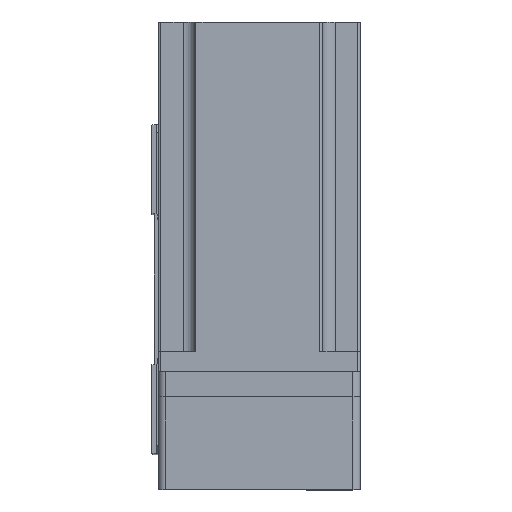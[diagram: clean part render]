
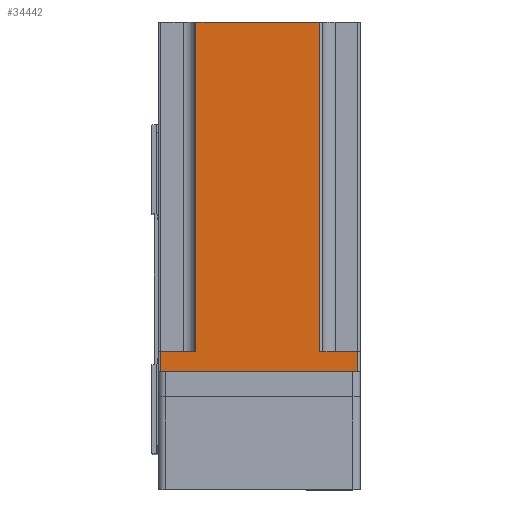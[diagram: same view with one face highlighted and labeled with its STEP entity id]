
A CAD part, top view. The second image highlights one B-rep face of the part: STEP entity #34442.
In plain terms, the highlighted planar face has unit normal (0, 0, 1) as drawn and (-1, 0, 0) by its records, which use the part's own axes.
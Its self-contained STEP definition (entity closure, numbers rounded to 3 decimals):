
#499 = VECTOR ( 'NONE', #14177, 1000. ) ;
#921 = VERTEX_POINT ( 'NONE', #17688 ) ;
#979 = VECTOR ( 'NONE', #40063, 1000. ) ;
#1565 = VECTOR ( 'NONE', #16499, 1000. ) ;
#1666 = ORIENTED_EDGE ( 'NONE', *, *, #9143, .T. ) ;
#2576 = LINE ( 'NONE', #19737, #1565 ) ;
#4002 = ORIENTED_EDGE ( 'NONE', *, *, #17159, .F. ) ;
#5111 = VECTOR ( 'NONE', #8178, 1000. ) ;
#7319 = VECTOR ( 'NONE', #36195, 1000. ) ;
#7542 = ORIENTED_EDGE ( 'NONE', *, *, #34612, .T. ) ;
#8178 = DIRECTION ( 'NONE',  ( 0., 0., 1. ) ) ;
#8288 = ORIENTED_EDGE ( 'NONE', *, *, #29727, .F. ) ;
#8470 = LINE ( 'NONE', #14075, #33386 ) ;
#8680 = DIRECTION ( 'NONE',  ( 0., 0., -1. ) ) ;
#9143 = EDGE_CURVE ( 'NONE', #921, #34441, #34239, .T. ) ;
#9155 = ORIENTED_EDGE ( 'NONE', *, *, #32388, .T. ) ;
#9182 = LINE ( 'NONE', #20572, #499 ) ;
#9308 = VERTEX_POINT ( 'NONE', #33784 ) ;
#9662 = LINE ( 'NONE', #10519, #979 ) ;
#10519 = CARTESIAN_POINT ( 'NONE',  ( -40., 25., 8. ) ) ;
#10933 = DIRECTION ( 'NONE',  ( 1., 0., 0. ) ) ;
#13336 = VERTEX_POINT ( 'NONE', #38338 ) ;
#13680 = AXIS2_PLACEMENT_3D ( 'NONE', #30438, #10933, #33698 ) ;
#13782 = LINE ( 'NONE', #21143, #5111 ) ;
#13948 = DIRECTION ( 'NONE',  ( 0., -1., 0. ) ) ;
#14075 = CARTESIAN_POINT ( 'NONE',  ( -40., -24., 138.3 ) ) ;
#14102 = EDGE_LOOP ( 'NONE', ( #4002, #29254, #8288, #15589, #9155, #7542, #1666, #19009 ) ) ;
#14177 = DIRECTION ( 'NONE',  ( 0., 1., 0. ) ) ;
#14849 = CARTESIAN_POINT ( 'NONE',  ( -40., -24., 8. ) ) ;
#15589 = ORIENTED_EDGE ( 'NONE', *, *, #25795, .F. ) ;
#15751 = CARTESIAN_POINT ( 'NONE',  ( -40., 25., 138.3 ) ) ;
#16499 = DIRECTION ( 'NONE',  ( 0., -1., 0. ) ) ;
#17159 = EDGE_CURVE ( 'NONE', #21476, #34170, #36412, .T. ) ;
#17205 = EDGE_CURVE ( 'NONE', #21476, #13336, #8470, .T. ) ;
#17688 = CARTESIAN_POINT ( 'NONE',  ( -40., 39., 0. ) ) ;
#19009 = ORIENTED_EDGE ( 'NONE', *, *, #32509, .T. ) ;
#19737 = CARTESIAN_POINT ( 'NONE',  ( -40., -40., 138.3 ) ) ;
#20243 = VERTEX_POINT ( 'NONE', #15751 ) ;
#20572 = CARTESIAN_POINT ( 'NONE',  ( -40., 40., 8. ) ) ;
#21143 = CARTESIAN_POINT ( 'NONE',  ( -40., -39., 138.3 ) ) ;
#21476 = VERTEX_POINT ( 'NONE', #14849 ) ;
#25016 = CARTESIAN_POINT ( 'NONE',  ( -40., 39., 138.3 ) ) ;
#25795 = EDGE_CURVE ( 'NONE', #9308, #20243, #9662, .T. ) ;
#26536 = CARTESIAN_POINT ( 'NONE',  ( -40., -40., 0. ) ) ;
#26666 = CARTESIAN_POINT ( 'NONE',  ( -40., 39., 8. ) ) ;
#26839 = CARTESIAN_POINT ( 'NONE',  ( -40., -40., 8. ) ) ;
#29254 = ORIENTED_EDGE ( 'NONE', *, *, #17205, .T. ) ;
#29727 = EDGE_CURVE ( 'NONE', #20243, #13336, #2576, .T. ) ;
#30438 = CARTESIAN_POINT ( 'NONE',  ( -40., -40., 138.3 ) ) ;
#30714 = FACE_OUTER_BOUND ( 'NONE', #14102, .T. ) ;
#32025 = CARTESIAN_POINT ( 'NONE',  ( -40., -39., 8. ) ) ;
#32224 = LINE ( 'NONE', #25016, #39818 ) ;
#32327 = VERTEX_POINT ( 'NONE', #26666 ) ;
#32388 = EDGE_CURVE ( 'NONE', #9308, #32327, #9182, .T. ) ;
#32509 = EDGE_CURVE ( 'NONE', #34441, #34170, #13782, .T. ) ;
#33386 = VECTOR ( 'NONE', #40041, 1000. ) ;
#33553 = CARTESIAN_POINT ( 'NONE',  ( -40., -39., 0. ) ) ;
#33698 = DIRECTION ( 'NONE',  ( 0., 0., -1. ) ) ;
#33784 = CARTESIAN_POINT ( 'NONE',  ( -40., 25., 8. ) ) ;
#34170 = VERTEX_POINT ( 'NONE', #32025 ) ;
#34239 = LINE ( 'NONE', #26536, #7319 ) ;
#34441 = VERTEX_POINT ( 'NONE', #33553 ) ;
#34442 = ADVANCED_FACE ( 'NONE', ( #30714 ), #36800, .F. ) ;
#34612 = EDGE_CURVE ( 'NONE', #32327, #921, #32224, .T. ) ;
#35408 = VECTOR ( 'NONE', #13948, 1000. ) ;
#36195 = DIRECTION ( 'NONE',  ( 0., -1., 0. ) ) ;
#36412 = LINE ( 'NONE', #26839, #35408 ) ;
#36800 = PLANE ( 'NONE',  #13680 ) ;
#38338 = CARTESIAN_POINT ( 'NONE',  ( -40., -24., 138.3 ) ) ;
#39818 = VECTOR ( 'NONE', #8680, 1000. ) ;
#40041 = DIRECTION ( 'NONE',  ( 0., 0., 1. ) ) ;
#40063 = DIRECTION ( 'NONE',  ( 0., 0., 1. ) ) ;
